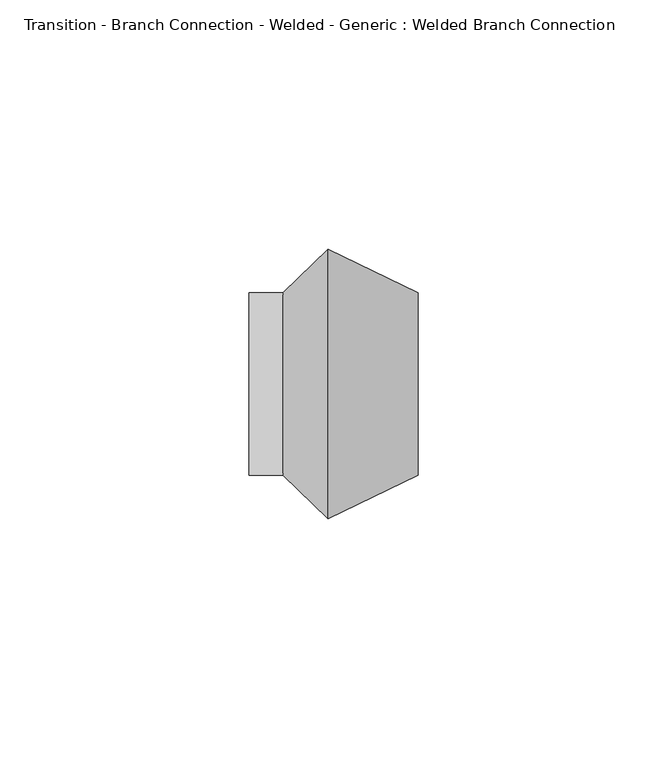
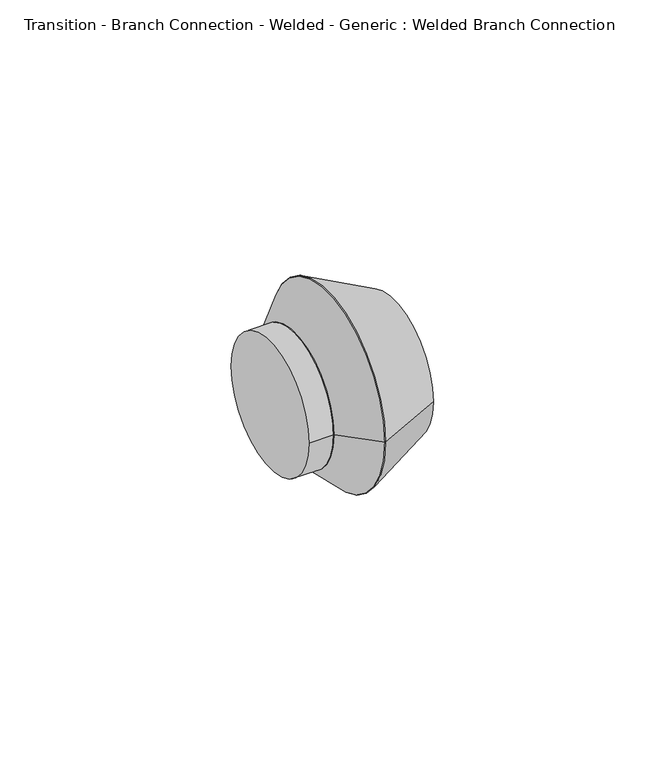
"""IFC4 building model written with IfcOpenShell, lengths in millimetres: pipe fitting geometry, Transition - Branch Connection - Welded - Generic : Welded Branch Connection."""

from ifc_helpers import new_model, si_unit, point, frame, origin, origin_2d, place, context, project, spatial, polyline, circle_curve, trimmed, segment, composite_curve, outline, extrude, source, transform, mapped, element, save
from ifc_brep_helpers import plane_surface, revolved_surface, advanced_brep


def transition_branch_connection_welded_generic_welded_branch_44048236(model_context):
    return source(origin(), model_context, "Body", "SolidModel", [
        advanced_brep(
        [(8.9958333, -26.9875, 0.0), (8.9958333, 26.9875, 0.0), (26.9875, -18.25625, 0.0), (26.9875, 18.25625, 0.0)],
        [
            (0, 1, circle_curve(frame((8.9958333, 0.0, 0.0), z_axis=(-1.0, 0.0, 0.0), x_axis=(0.0, -1.0, 0.0)), 26.9875)),
            (1, 0, circle_curve(frame((8.9958333, 0.0, 0.0), z_axis=(-1.0, 0.0, 0.0), x_axis=(0.0, 1.0, 0.0)), 26.9875)),
            (2, 3, circle_curve(frame((26.9875, 0.0, 0.0), z_axis=(1.0, 0.0, 0.0), x_axis=(0.0, 1.0, 0.0)), 18.25625)),
            (3, 2, circle_curve(frame((26.9875, 0.0, 0.0), z_axis=(1.0, 0.0, 0.0), x_axis=(0.0, -1.0, 0.0)), 18.25625)),
            (2, 0),
            (1, 3),
        ],
        [
            plane_surface(frame((8.9958333, 0.0, 0.0), z_axis=(-1.0, 0.0, 0.0), x_axis=(0.0, 0.0, -1.0))),
            plane_surface(frame((26.9875, 0.0, 0.0), z_axis=(1.0, 0.0, 0.0), x_axis=(0.0, 0.0, -1.0))),
            revolved_surface(polyline([(26.987499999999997, -18.25624999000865, 0.0), (8.995833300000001, -26.9875, 0.0)]), (64.6064394, 0.0, 0.0), (-1.0, 0.0, 0.0)),
            revolved_surface(polyline([(26.987499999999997, 18.25624999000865, 0.0), (8.995833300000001, 26.9875, 0.0)]), (64.6064394, 0.0, 0.0), (-1.0, 0.0, 0.0)),
        ],
        [
            (0, [[1, 2]]),
            (1, [[3, 4]]),
            (2, [[-3, 5, -2, 6]]),
            (3, [[-4, -6, -1, -5]]),
        ],
    ),
        advanced_brep(
        [(8.9958333, -26.9875, 0.0), (8.9958333, 26.9875, 0.0), (0.0, -18.25625, 0.0), (0.0, 18.25625, 0.0)],
        [
            (0, 1, circle_curve(frame((8.9958333, 0.0, 0.0), z_axis=(1.0, 0.0, 0.0), x_axis=(0.0, -1.0, 0.0)), 26.9875)),
            (1, 0, circle_curve(frame((8.9958333, 0.0, 0.0), z_axis=(1.0, 0.0, 0.0), x_axis=(0.0, 1.0, 0.0)), 26.9875)),
            (2, 3, circle_curve(frame((0.0, 0.0, 0.0), z_axis=(-1.0, 0.0, 0.0), x_axis=(0.0, 1.0, 0.0)), 18.25625)),
            (3, 2, circle_curve(frame((0.0, 0.0, 0.0), z_axis=(-1.0, 0.0, 0.0), x_axis=(0.0, -1.0, 0.0)), 18.25625)),
            (3, 1),
            (0, 2),
        ],
        [
            plane_surface(frame((8.9958333, 0.0, 0.0), z_axis=(1.0, 0.0, 0.0), x_axis=(0.0, 0.0, -1.0))),
            plane_surface(frame((0.0, 0.0, 0.0), z_axis=(-1.0, 0.0, 0.0), x_axis=(0.0, 0.0, -1.0))),
            revolved_surface(polyline([(0.0, 18.25625002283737, 0.0), (8.995833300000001, 26.9875, 0.0)]), (-18.8094697, 0.0, 0.0), (1.0, 0.0, 0.0)),
            revolved_surface(polyline([(0.0, -18.25625002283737, 0.0), (8.995833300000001, -26.9875, 0.0)]), (-18.8094697, 0.0, 0.0), (1.0, 0.0, 0.0)),
        ],
        [
            (0, [[1, 2]]),
            (1, [[3, 4]]),
            (2, [[-4, 5, -1, 6]]),
            (3, [[-3, -6, -2, -5]]),
        ],
    ),
        extrude(outline(composite_curve([segment(trimmed(circle_curve(origin_2d(), 18.25625), [point((-18.25625, 0.0))], [point((18.25625, 0.0))], False, "CARTESIAN"), True, "CONTINUOUS"), segment(trimmed(circle_curve(origin_2d(), 18.25625), [point((18.25625, 0.0))], [point((-18.25625, 0.0))], False, "CARTESIAN"), True, "CONTINUOUS")], self_intersect=False)), frame((-6.8347229, 0.0, 0.0), z_axis=(1.0, 0.0, 0.0), x_axis=(0.0, 1.0, 0.0)), (0.0, 0.0, 1.0), 6.8347229),
    ])


if __name__ == "__main__":
    model = new_model("IFC4")
    model_context = context("Model", 3, world=origin())
    ifc_project = project(units=[si_unit("LENGTHUNIT", "METRE", prefix="MILLI")], contexts=[model_context])
    site = spatial("IfcSite", under=ifc_project)
    building = spatial("IfcBuilding", under=site)
    placement = place(None, origin())
    transition_branch_connection_welded_generic_welded_branch_shape = transition_branch_connection_welded_generic_welded_branch_44048236(model_context)
    element("IfcPipeFitting", 1, ObjectType="Transition - Branch Connection - Welded - Generic : Welded Branch Connection", at=placement, inside=building, context=model_context, shape_type="MappedRepresentation", body=[
        mapped(transition_branch_connection_welded_generic_welded_branch_shape, transform((0.0, 0.0, 0.0), x_axis=(1.0, 0.0, 0.0), y_axis=(0.0, 1.0, 0.0), z_axis=(0.0, 0.0, 1.0))),
    ])
    save(model, "model.ifc")
